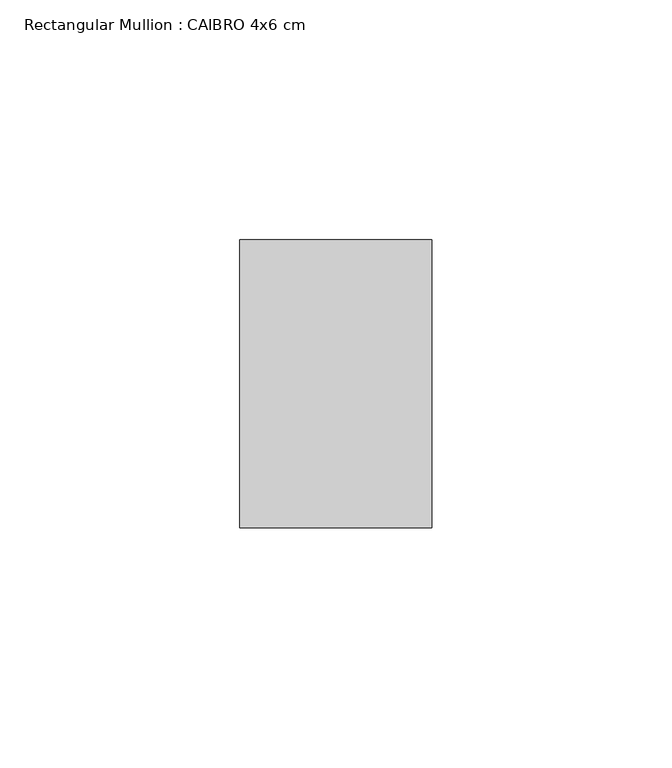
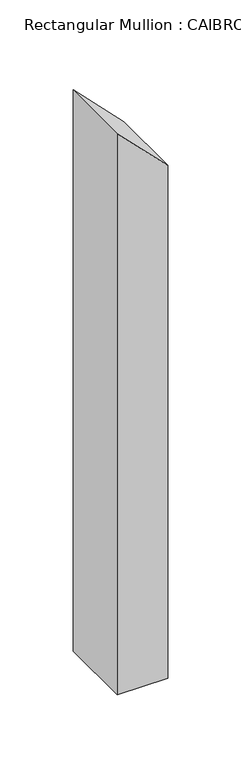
"""IFC4 building model written with IfcOpenShell, lengths in millimetres: member geometry, Rectangular Mullion : CAIBRO 4x6 cm."""

from ifc_helpers import new_model, si_unit, frame, origin, place, context, project, spatial, polyline, outline, extrude, source, transform, mapped, element, save


def rectangular_mullion_caibro_4x6_cm_f4b4e3a9(model_context):
    return source(origin(), model_context, "Body", "SweptSolid", [
        extrude(outline(polyline([(-77.109599, 20.0), (-36.6621022, -20.0), (-504.7942059, -20.0), (-504.7942059, 20.0), (-77.109599, 20.0)])), frame((0.0, 0.0, 0.0), z_axis=(0.0, 1.0, 0.0), x_axis=(0.0, 0.0, 1.0)), (0.0, 0.0, 1.0), 60.0),
    ])


if __name__ == "__main__":
    model = new_model("IFC4")
    model_context = context("Model", 3, world=origin())
    ifc_project = project(units=[si_unit("LENGTHUNIT", "METRE", prefix="MILLI")], contexts=[model_context])
    site = spatial("IfcSite", under=ifc_project)
    building = spatial("IfcBuilding", under=site)
    placement = place(None, origin())
    rectangular_mullion_caibro_4x6_cm_shape = rectangular_mullion_caibro_4x6_cm_f4b4e3a9(model_context)
    element("IfcMember", 1, ObjectType="Rectangular Mullion : CAIBRO 4x6 cm", at=placement, inside=building, context=model_context, shape_type="MappedRepresentation", body=[
        mapped(rectangular_mullion_caibro_4x6_cm_shape, transform((0.0, 0.0, 0.0), x_axis=(1.0, 0.0, 0.0), y_axis=(0.0, 1.0, 0.0), z_axis=(0.0, 0.0, 1.0))),
    ])
    save(model, "model.ifc")
